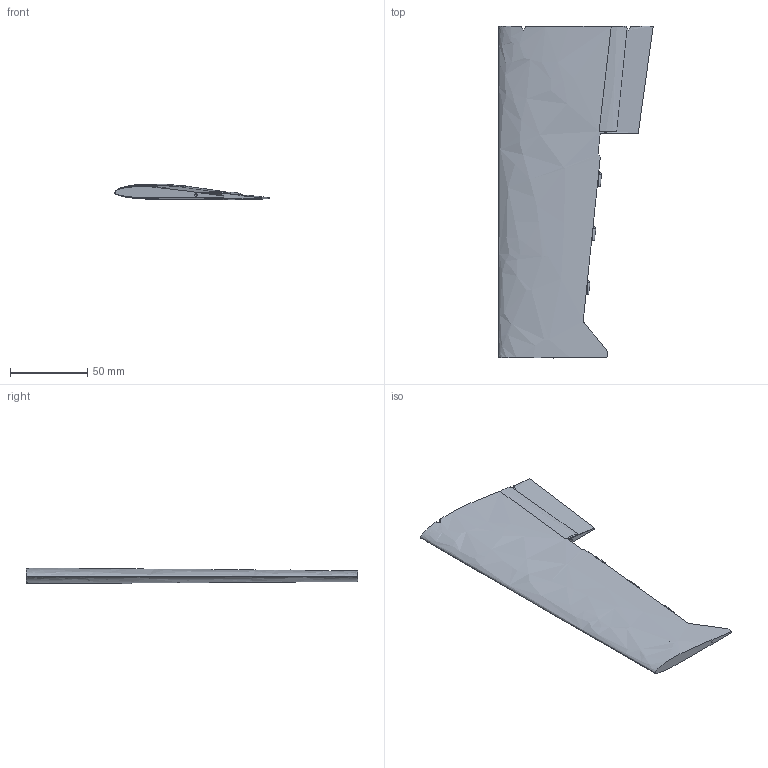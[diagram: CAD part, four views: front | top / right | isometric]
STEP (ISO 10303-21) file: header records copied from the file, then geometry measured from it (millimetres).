
FILE_DESCRIPTION(('Open CASCADE Model'),'2;1');
FILE_NAME('Open CASCADE Shape Model','2026-10-04T08:08:21',('Author'),( 'Open CASCADE'),'Open CASCADE STEP processor 7.9','Open CASCADE 7.9' ,'Unknown');
FILE_SCHEMA(('AUTOMOTIVE_DESIGN { 1 0 10303 214 1 1 1 1 }'));
Length unit declared in the file: millimetre
Products named in the file (1): Open CASCADE STEP translator 7.9 15
Bounding box: 99.95 x 215 x 10.28 mm (x, y, z)
Volume: 93022.9 mm3; surface area: 37639 mm2
Topology: 1 solids, 1 shells, 108 faces, 350 edges, 237 vertices
Faces by surface type: plane 82, cylinder 17, bspline 7, cone 2
Full cylindrical faces by diameter (mm): 1.6 x4, 3.375 x1, 5.2 x1
Entity records: 16792 total; most frequent: CARTESIAN_POINT 10755, DIRECTION 909, ORIENTED_EDGE 700, PCURVE 700, DEFINITIONAL_REPRESENTATION 700, LINE 455, VECTOR 455, B_SPLINE_CURVE_WITH_KNOTS 359
